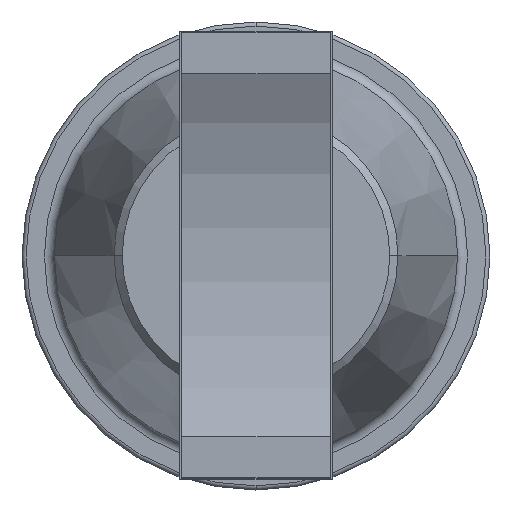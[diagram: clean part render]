
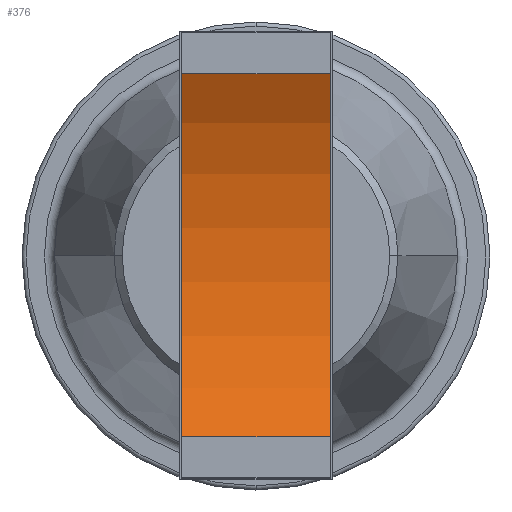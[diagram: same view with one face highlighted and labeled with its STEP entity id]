
A CAD part, top view. The second image highlights one B-rep face of the part: STEP entity #376.
In plain terms, the highlighted cylindrical face has radius 177.8 mm (diameter 355.6 mm), a partial arc.
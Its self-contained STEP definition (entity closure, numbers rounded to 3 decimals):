
#376=ADVANCED_FACE('',(#747),#748,.F.);
#747=FACE_OUTER_BOUND('',#1145,.T.);
#748=CYLINDRICAL_SURFACE('',#1146,177.8);
#1145=EDGE_LOOP('',(#2038,#2039,#2040,#2041));
#1146=AXIS2_PLACEMENT_3D('',#2042,#2043,#2044);
#2038=ORIENTED_EDGE('',*,*,#2590,.T.);
#2039=ORIENTED_EDGE('',*,*,#2591,.F.);
#2040=ORIENTED_EDGE('',*,*,#2592,.T.);
#2041=ORIENTED_EDGE('',*,*,#2587,.T.);
#2042=CARTESIAN_POINT('',(496.376,513.19,201.4));
#2043=DIRECTION('',(-1.0,0.,0.));
#2044=DIRECTION('',(0.,-1.0,0.));
#2587=EDGE_CURVE('',#3139,#3137,#3140,.T.);
#2590=EDGE_CURVE('',#3137,#3143,#3144,.T.);
#2591=EDGE_CURVE('',#3145,#3143,#3146,.T.);
#2592=EDGE_CURVE('',#3145,#3139,#3147,.T.);
#3137=VERTEX_POINT('',#4305);
#3139=VERTEX_POINT('',#4308);
#3140=LINE('',#4309,#4310);
#3143=VERTEX_POINT('',#4314);
#3144=CIRCLE('',#4315,177.8);
#3145=VERTEX_POINT('',#4316);
#3146=LINE('',#4317,#4318);
#3147=CIRCLE('',#4319,177.8);
#4305=CARTESIAN_POINT('',(423.376,602.4,47.6));
#4308=CARTESIAN_POINT('',(496.376,602.4,47.6));
#4309=CARTESIAN_POINT('',(496.376,602.4,47.6));
#4310=VECTOR('',#4937,1.0);
#4314=CARTESIAN_POINT('',(423.376,423.981,47.6));
#4315=AXIS2_PLACEMENT_3D('',#4939,#4940,#4941);
#4316=CARTESIAN_POINT('',(496.376,423.981,47.6));
#4317=CARTESIAN_POINT('',(496.376,423.981,47.6));
#4318=VECTOR('',#4942,1.0);
#4319=AXIS2_PLACEMENT_3D('',#4943,#4944,#4945);
#4937=DIRECTION('',(-1.0,0.,0.));
#4939=CARTESIAN_POINT('',(423.376,513.19,201.4));
#4940=DIRECTION('',(-1.0,0.,0.));
#4941=DIRECTION('',(0.,-1.0,0.));
#4942=DIRECTION('',(-1.0,0.,0.));
#4943=CARTESIAN_POINT('',(496.376,513.19,201.4));
#4944=DIRECTION('',(1.0,0.,0.));
#4945=DIRECTION('',(0.,-1.0,0.));
